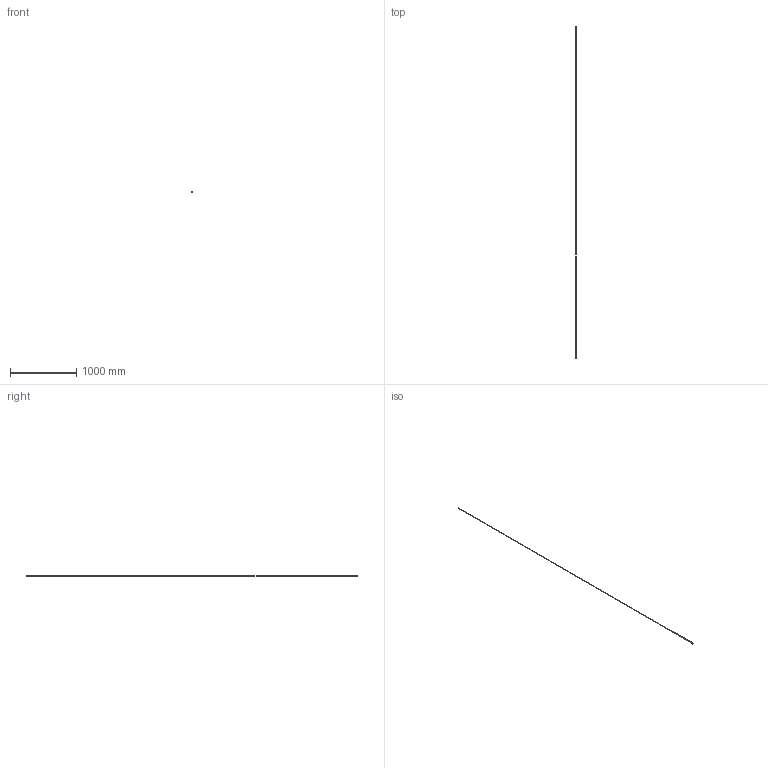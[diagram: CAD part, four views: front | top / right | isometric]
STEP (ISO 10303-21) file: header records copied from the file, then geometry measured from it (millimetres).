
FILE_DESCRIPTION(/* description */ ('Unknown'),/* implementation_level */ '2;1');
FILE_NAME(/* name */ 'SILICONE_C 10_5x4_5mm',/* time_stamp */ '2023-02-07T09:17:36+01:00',/* author */ ('Unknown'),/* organization */ ('Unknown'),/* preprocessor_version */ 'ST-DEVELOPER v18.1',/* originating_system */ 'Solid Edge',/* authorisation */ 'Unknown');
FILE_SCHEMA (('AUTOMOTIVE_DESIGN {1 0 10303 214 3 1 1}'));
Length unit declared in the file: millimetre
Products named in the file (1): Parte1
Bounding box: 12.5 x 5012 x 6.5 mm (x, y, z)
Volume: 237288.8 mm3; surface area: 150623.6 mm2
Topology: 1 solids, 1 shells, 18 faces, 39 edges, 26 vertices
Faces by surface type: plane 17, cylinder 1
Full cylindrical faces by diameter (mm): 5 x1
Entity records: 510 total; most frequent: CARTESIAN_POINT 83, DIRECTION 78, ORIENTED_EDGE 76, EDGE_CURVE 38, LINE 36, VECTOR 36, VERTEX_POINT 26, EDGE_LOOP 22
